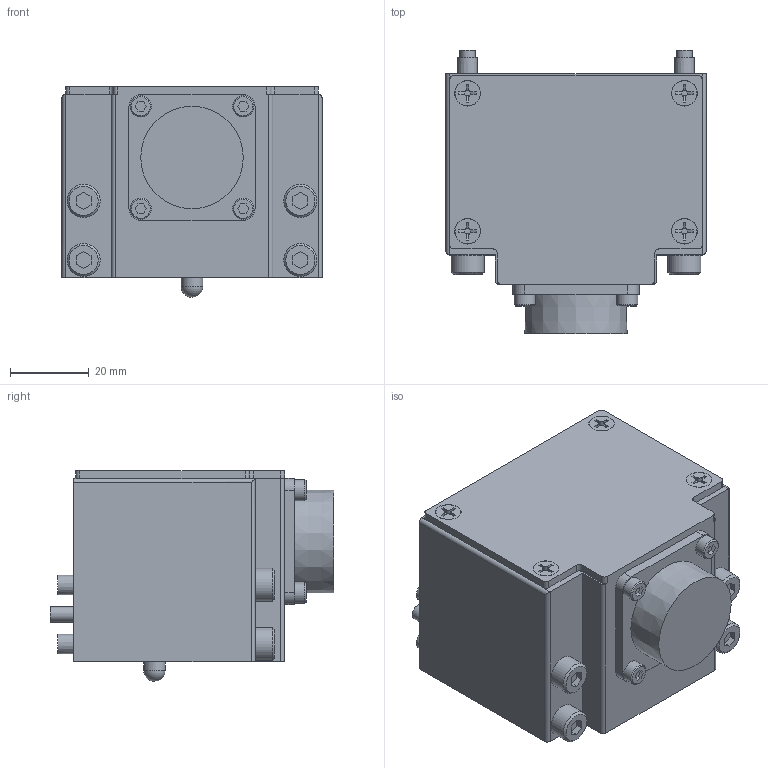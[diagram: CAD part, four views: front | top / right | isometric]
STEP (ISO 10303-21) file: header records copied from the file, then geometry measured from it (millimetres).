
FILE_DESCRIPTION(('STEP AP214'),'1');
FILE_NAME('KHB-45_300RS-D1010C_ver1.stp','2026-04-27T05:46:44',(' '),(' '),'Spatial InterOp 3D',' ',' ');
FILE_SCHEMA(('AUTOMOTIVE_DESIGN { 1 0 10303 214 1 1 1 1 }'));
Length unit declared in the file: millimetre
Products named in the file (3): KHB-45~300RS-D1010C_ver1; パーツ1
Assembly tree (2 placements, depth 2):
  KHB-45~300RS-D1010C_ver1
    パーツ1
    パーツ1
Bounding box: 66 x 72 x 53.5 mm (x, y, z)
Volume: 168961 mm3; surface area: 32078.9 mm2
Topology: 2 solids, 19 shells, 512 faces, 1138 edges, 756 vertices
Faces by surface type: plane 356, cylinder 121, cone 34, sphere 1
Full cylindrical faces by diameter (mm): 1.5 x10, 2.5 x8, 3 x10, 3.4 x4, 3.5 x14, 4 x3, 4.2 x2, 5 x4, 5.41 x4, 5.5 x7, 8.385 x6, 9.5 x2, 13 x1
Entity records: 17278 total; most frequent: DIRECTION 2298, CARTESIAN_POINT 2199, ORIENTED_EDGE 1956, EDGE_CURVE 978, AXIS2_PLACEMENT_3D 805, EDGE_LOOP 726, VERTEX_POINT 706, LINE 688
